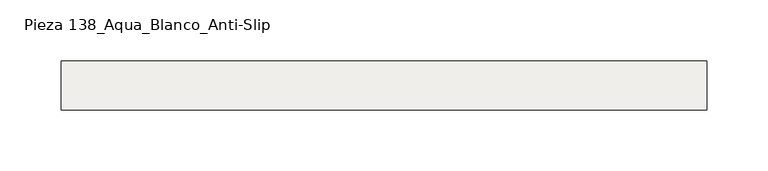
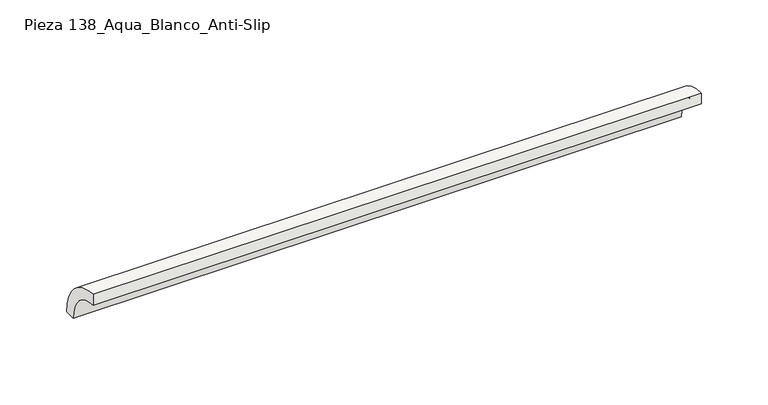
"""IFC4 building model written with IfcOpenShell, lengths in millimetres: slab geometry, ROSA GRES_138 : Pieza 138_Aqua_Blanco_Anti-Slip."""

from ifc_helpers import new_model, si_unit, point, frame, frame_2d, origin, origin_2d, place, context, project, spatial, polyline, circle_curve, trimmed, segment, composite_curve, outline, extrude, source, transform, mapped, element, save


def pieza_138_aqua_blanco_anti_slip_ea393ef7(model_context):
    return source(origin(), model_context, "Body", "SweptSolid", [
        extrude(outline(composite_curve([segment(trimmed(circle_curve(origin_2d(), 40.0), [point((0.0, 40.0))], [point((40.0, 0.0))], False, "CARTESIAN"), True, "CONTINUOUS"), segment(polyline([(40.0, 0.0), (30.0265886, 0.0)]), True, "CONTINUOUS"), segment(trimmed(circle_curve(frame_2d((0.0044453, 0.0044453)), 30.0221435), [point((30.0265886, 0.0))], [point((0.0, 30.0265886))], True, "CARTESIAN"), True, "CONTINUOUS"), segment(polyline([(0.0, 30.0265886), (0.0, 40.0)]), True, "CONTINUOUS")], self_intersect=False)), frame((0.0, 0.0, 0.0), z_axis=(1.0, 0.0, 0.0), x_axis=(0.0, 1.0, 0.0)), (0.0, 0.0, 1.0), 527.6084046),
    ])


if __name__ == "__main__":
    model = new_model("IFC4")
    model_context = context("Model", 3, world=origin())
    ifc_project = project(units=[si_unit("LENGTHUNIT", "METRE", prefix="MILLI")], contexts=[model_context])
    site = spatial("IfcSite", under=ifc_project)
    building = spatial("IfcBuilding", under=site)
    placement = place(None, origin())
    pieza_138_aqua_blanco_anti_slip_shape = pieza_138_aqua_blanco_anti_slip_ea393ef7(model_context)
    element("IfcSlab", 1, ObjectType="ROSA GRES_138 : Pieza 138_Aqua_Blanco_Anti-Slip", at=placement, inside=building, context=model_context, shape_type="MappedRepresentation", body=[
        mapped(pieza_138_aqua_blanco_anti_slip_shape, transform((0.0, 0.0, 0.0), x_axis=(1.0, 0.0, 0.0), y_axis=(0.0, 1.0, 0.0), z_axis=(0.0, 0.0, 1.0))),
    ])
    save(model, "model.ifc")
